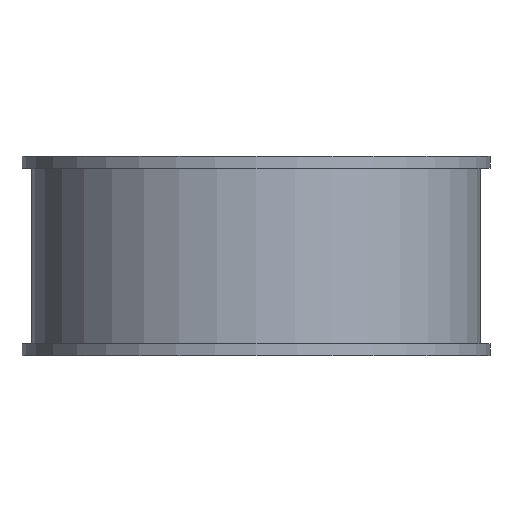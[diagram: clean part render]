
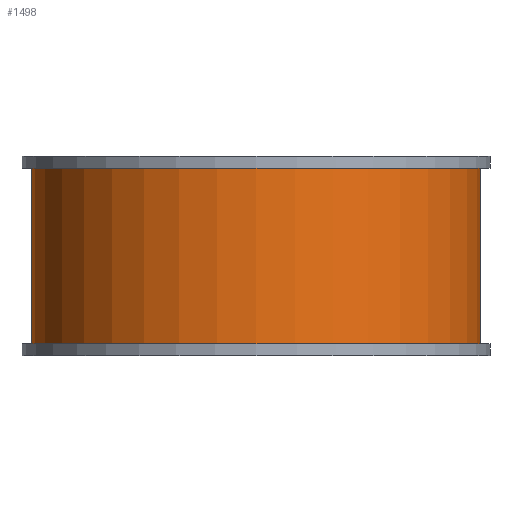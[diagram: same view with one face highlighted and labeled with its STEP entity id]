
A CAD part, front view. The second image highlights one B-rep face of the part: STEP entity #1498.
In plain terms, the highlighted cylindrical face has radius 225 mm (diameter 450 mm), a partial arc.
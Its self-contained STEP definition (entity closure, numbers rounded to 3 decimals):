
#19 = DIRECTION ( 'NONE',  ( 1., 0., 0. ) ) ;
#75 = EDGE_CURVE ( 'NONE', #352, #2133, #767, .T. ) ;
#155 = DIRECTION ( 'NONE',  ( 1., 0., 0. ) ) ;
#161 = ORIENTED_EDGE ( 'NONE', *, *, #716, .F. ) ;
#257 = CIRCLE ( 'NONE', #1854, 225. ) ;
#352 = VERTEX_POINT ( 'NONE', #2766 ) ;
#437 = DIRECTION ( 'NONE',  ( 0., 0., 1. ) ) ;
#509 = AXIS2_PLACEMENT_3D ( 'NONE', #2381, #2900, #155 ) ;
#716 = EDGE_CURVE ( 'NONE', #1461, #352, #2951, .T. ) ;
#763 = CARTESIAN_POINT ( 'NONE',  ( 0., 0., -168. ) ) ;
#767 = CIRCLE ( 'NONE', #509, 225. ) ;
#835 = EDGE_CURVE ( 'NONE', #2704, #2133, #2714, .T. ) ;
#840 = CARTESIAN_POINT ( 'NONE',  ( 225., 0., 8. ) ) ;
#903 = ORIENTED_EDGE ( 'NONE', *, *, #1617, .T. ) ;
#1443 = ORIENTED_EDGE ( 'NONE', *, *, #75, .F. ) ;
#1461 = VERTEX_POINT ( 'NONE', #2820 ) ;
#1498 = ADVANCED_FACE ( 'NONE', ( #2889 ), #1660, .T. ) ;
#1515 = DIRECTION ( 'NONE',  ( 0., 0., 1. ) ) ;
#1617 = EDGE_CURVE ( 'NONE', #1461, #2704, #257, .T. ) ;
#1660 = CYLINDRICAL_SURFACE ( 'NONE', #2579, 225. ) ;
#1817 = CARTESIAN_POINT ( 'NONE',  ( 225., 0., -168. ) ) ;
#1854 = AXIS2_PLACEMENT_3D ( 'NONE', #763, #2735, #19 ) ;
#1890 = DIRECTION ( 'NONE',  ( 0., 0., 1. ) ) ;
#2133 = VERTEX_POINT ( 'NONE', #840 ) ;
#2381 = CARTESIAN_POINT ( 'NONE',  ( 0., 0., 8. ) ) ;
#2579 = AXIS2_PLACEMENT_3D ( 'NONE', #2670, #437, #2909 ) ;
#2595 = VECTOR ( 'NONE', #1515, 1000. ) ;
#2670 = CARTESIAN_POINT ( 'NONE',  ( 0., 0., 40. ) ) ;
#2704 = VERTEX_POINT ( 'NONE', #1817 ) ;
#2714 = LINE ( 'NONE', #3003, #2595 ) ;
#2735 = DIRECTION ( 'NONE',  ( 0., 0., 1. ) ) ;
#2766 = CARTESIAN_POINT ( 'NONE',  ( -225., 0., 8. ) ) ;
#2767 = ORIENTED_EDGE ( 'NONE', *, *, #835, .T. ) ;
#2820 = CARTESIAN_POINT ( 'NONE',  ( -225., 0., -168. ) ) ;
#2889 = FACE_OUTER_BOUND ( 'NONE', #3146, .T. ) ;
#2900 = DIRECTION ( 'NONE',  ( 0., 0., 1. ) ) ;
#2909 = DIRECTION ( 'NONE',  ( 1., 0., 0. ) ) ;
#2951 = LINE ( 'NONE', #3122, #3057 ) ;
#3003 = CARTESIAN_POINT ( 'NONE',  ( 225., 0., 40. ) ) ;
#3057 = VECTOR ( 'NONE', #1890, 1000. ) ;
#3122 = CARTESIAN_POINT ( 'NONE',  ( -225., 0., 40. ) ) ;
#3146 = EDGE_LOOP ( 'NONE', ( #161, #903, #2767, #1443 ) ) ;
